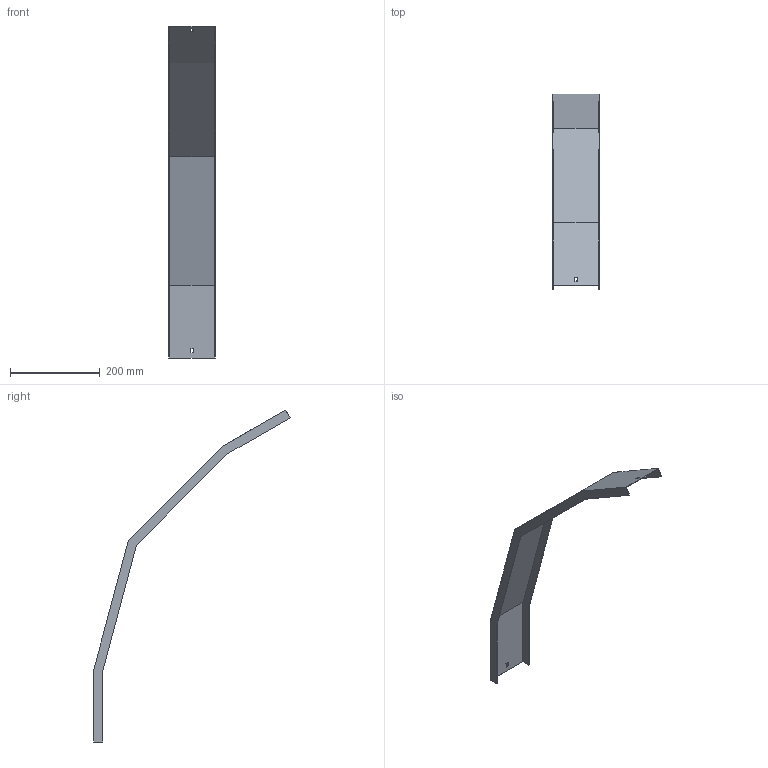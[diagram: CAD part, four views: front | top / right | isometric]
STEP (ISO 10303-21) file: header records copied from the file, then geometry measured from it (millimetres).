
FILE_DESCRIPTION (( 'STEP AP214' ), '1' );
FILE_NAME ('41N5C100.step', '2025-02-21T10:37:25', ( '' ), ( '' ), 'SwSTEP 2.0', 'SolidWorks 2023', '' );
FILE_SCHEMA (( 'AUTOMOTIVE_DESIGN' ));
Length unit declared in the file: millimetre
Products named in the file (1): 41N5C100
Bounding box: 103 x 437.72 x 740.83 mm (x, y, z)
Volume: 192110 mm3; surface area: 259356.1 mm2
Topology: 1 solids, 1 shells, 30 faces, 84 edges, 56 vertices
Faces by surface type: plane 30
Entity records: 979 total; most frequent: CARTESIAN_POINT 171, ORIENTED_EDGE 168, DIRECTION 146, VECTOR 84, EDGE_CURVE 84, LINE 84, VERTEX_POINT 56, EDGE_LOOP 34
